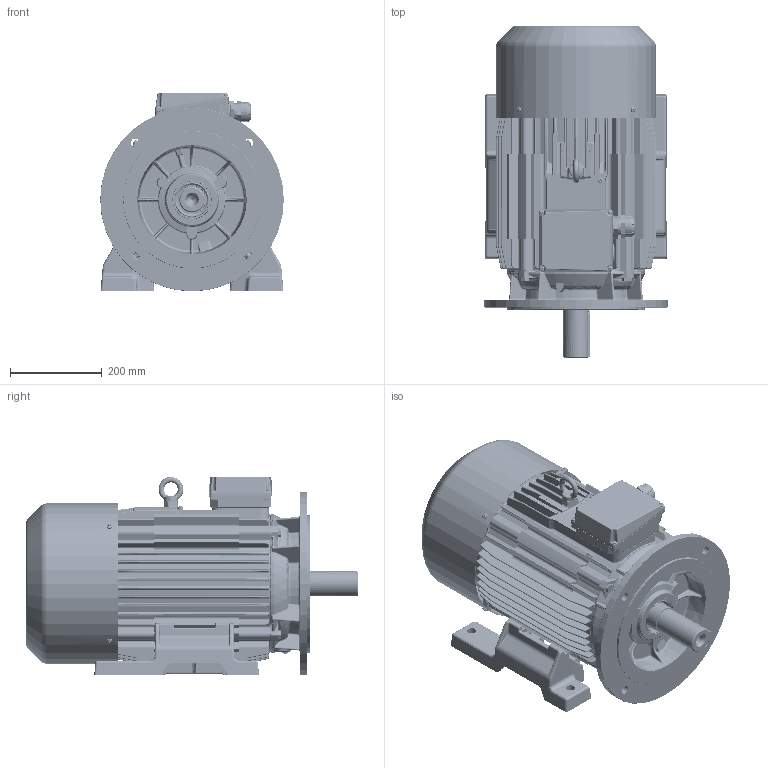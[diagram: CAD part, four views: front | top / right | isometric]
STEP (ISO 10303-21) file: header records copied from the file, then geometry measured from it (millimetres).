
FILE_DESCRIPTION(/* description */ ('Unknown'),/* implementation_level */ '2;1');
FILE_NAME(/* name */ 'S-217-01-2021',/* time_stamp */ '2021-07-15T09:14:48+02:00',/* author */ ('Unknown'),/* organization */ ('Unknown'),/* preprocessor_version */ 'ST-DEVELOPER v16.7',/* originating_system */ 'DEX',/* authorisation */ $);
FILE_SCHEMA (('AUTOMOTIVE_DESIGN {1 0 10303 214 3 1 1}'));
Products named in the file (43): S-217-01-2021; waｳ do s-217; Bearing_DIN_625_1_1989_6312_v12.00; Bearing_DIN_625_1_1989_6311_v12.00; kad³ub_zest_oa_0; kad_obr_oa_1; 7195-002-02_oa_2; 7195-002-02_odb3_oa_3; Screw_DIN_912_M12x45_v14.00; Washer_DIN_127_B_12_v14.00; Washer_DIN_125_1_A_13_v12.00; Washer_DIN_127_B_12_v14.00_odb1; Œruby z uchem 82472_M12; PLg-79-12_1; PLg-69-52_10; AB 16x10x100; Screw_DIN_EN_24017_M12x40_v12.00; zestawienie skrzynki 160,180 1xM40 + zaslepka; RDg-59-12; Screw_DIN_EN_ISO_7045_M6x16_H_v12.00; M6; Washer_DIN_EN_ISO_7092_2000_6.0_v12.00; Washer_DIN_127_B_6_v14.00; Screw_DIN_EN_ISO_7045_M6x14_H_v12.00; QDg-53-05_1 z uszczelk¹; QDg-53-05_1; SDg-53-03_2 Sg 160-180; Screw_DIN_EN_ISO_7045_M5x20_H_v12.00; D³awik M40; Uszczelka M40; Nakrêtka M40; SDh-19-56_6; QDg-53-29_1; A0 60x85x10; Screw_DIN_EN_ISO_7045_M6x10_H_v12.00; PVg-69-06_16; SNG-49-38; RVg-69-243_2
Assembly tree (63 placements, depth 4):
  S-217-01-2021
    waｳ do s-217
    Bearing_DIN_625_1_1989_6312_v12.00
    Bearing_DIN_625_1_1989_6311_v12.00
    kad³ub_zest_oa_0
      kad_obr_oa_1
      7195-002-02_oa_2
      7195-002-02_odb3_oa_3
      Screw_DIN_912_M12x45_v14.00  x4
      Washer_DIN_127_B_12_v14.00  x2
      Washer_DIN_125_1_A_13_v12.00  x4
      Washer_DIN_127_B_12_v14.00_odb1  x2
    Œruby z uchem 82472_M12
    PLg-79-12_1
    PLg-69-52_10
    AB 16x10x100
    Screw_DIN_EN_24017_M12x40_v12.00  x4
    zestawienie skrzynki 160,180 1xM40 + zaslepka
      RDg-59-12
      Screw_DIN_EN_ISO_7045_M6x16_H_v12.00  x3
      M6
        Washer_DIN_EN_ISO_7092_2000_6.0_v12.00  x2
        Washer_DIN_127_B_6_v14.00
        Screw_DIN_EN_ISO_7045_M6x14_H_v12.00
      QDg-53-05_1 z uszczelk¹
        QDg-53-05_1
        SDg-53-03_2 Sg 160-180
      Screw_DIN_EN_ISO_7045_M5x20_H_v12.00  x4
      D³awik M40
        Uszczelka M40
        D³awik M40
        Nakrêtka M40
      SDh-19-56_6
      QDg-53-29_1
    A0 60x85x10
    Screw_DIN_EN_ISO_7045_M6x10_H_v12.00  x4
    PVg-69-06_16
    M6
      Washer_DIN_EN_ISO_7092_2000_6.0_v12.00  x2
      Washer_DIN_127_B_6_v14.00
      Screw_DIN_EN_ISO_7045_M6x14_H_v12.00
    SNG-49-38
    RVg-69-243_2
Bounding box: 400 x 723 x 433.41 mm (x, y, z)
Volume: 14743764 mm3; surface area: 3552823.7 mm2
Topology: 77 solids, 95 shells, 10356 faces, 26888 edges, 16561 vertices
Faces by surface type: cylinder 3716, plane 3503, bspline 2107, torus 542, cone 288, sphere 200
Full cylindrical faces by diameter (mm): 3 x10, 4 x1, 4.2 x4, 4.917 x5, 5 x11, 5.3 x4, 5.5 x4, 6 x9, 6.4 x8, 6.5 x1, 6.647 x1, 6.8 x1, 7 x2, 8 x1, 9 x1, 9.4 x1, 9.5 x4, 9.853 x8, 10 x4, 10.2 x22, 11 x4, 12 x26, 13 x4, 13.5 x8, 15 x4, 16 x1, 16.63 x4, 17.5 x2, 18 x4, 19 x8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
Entity records: 452857 total; most frequent: CARTESIAN_POINT 181172, ORIENTED_EDGE 50400, DIRECTION 44490, EDGE_CURVE 25200, AXIS2_PLACEMENT_3D 16644, VERTEX_POINT 15912, FACE_BOUND 11474, EDGE_LOOP 11424
